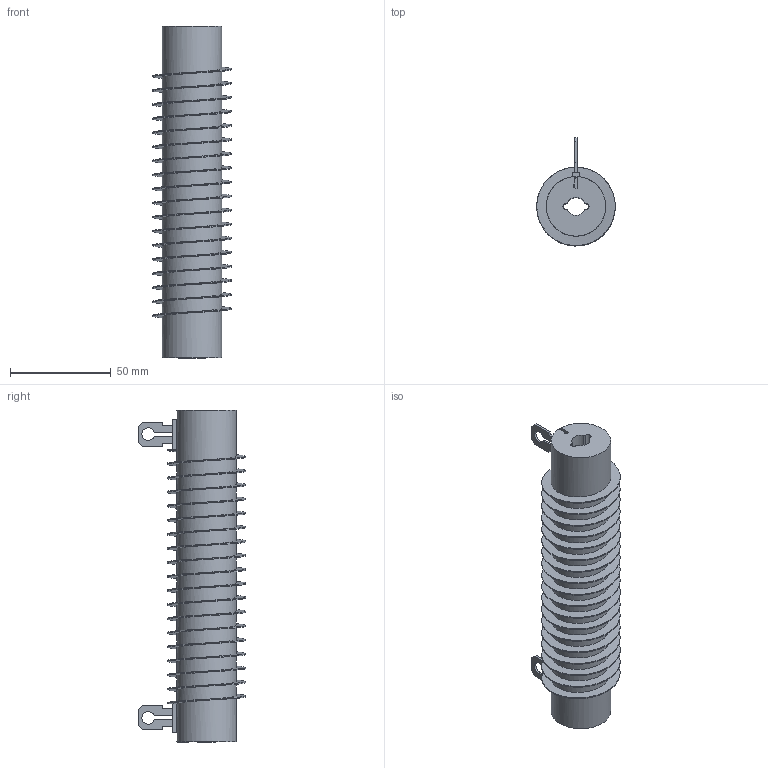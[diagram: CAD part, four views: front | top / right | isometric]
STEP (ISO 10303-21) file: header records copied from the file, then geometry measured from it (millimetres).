
FILE_DESCRIPTION(/* description */ (''),/* implementation_level */ '2;1');
FILE_NAME(/* name */ 'C:\_Vault\Dati\CATALOGO\RCPO-RSPO\RCPO-RSPO 152-420\CPO0240.stp',/* time_stamp */ '2014-01-22T16:50:19+01:00',/* author */ ('stefano'),/* organization */ (''),/* preprocessor_version */ 'ST-DEVELOPER v15.2',/* originating_system */ 'Autodesk Inventor 2014',/* authorisation */ '');
FILE_SCHEMA (('AUTOMOTIVE_DESIGN { 1 0 10303 214 3 1 1 }'));
Length unit declared in the file: millimetre
Products named in the file (1): CPO0240
Bounding box: 39 x 53.5 x 165 mm (x, y, z)
Volume: 104332.2 mm3; surface area: 44042 mm2
Topology: 1 solids, 1 shells, 101 faces, 305 edges, 202 vertices
Faces by surface type: plane 66, cylinder 33, bspline 2
Full cylindrical faces by diameter (mm): 29.6 x18
Entity records: 6200 total; most frequent: CARTESIAN_POINT 3727, ORIENTED_EDGE 502, DIRECTION 470, EDGE_CURVE 250, LINE 184, VECTOR 184, VERTEX_POINT 166, AXIS2_PLACEMENT_3D 143
